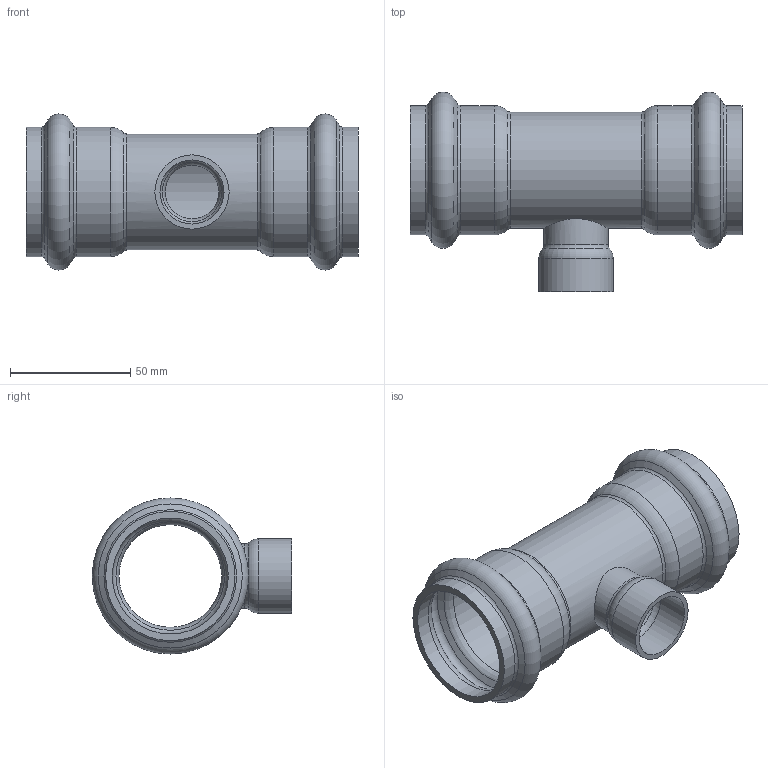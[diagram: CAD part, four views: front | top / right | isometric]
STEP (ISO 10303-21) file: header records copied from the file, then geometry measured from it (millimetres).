
FILE_DESCRIPTION(/* description */ ('VIC TEE RED. BRANCH STYLE P588 (P x P x F)','CAx-IF Rec.Pracs.---Representation and Presentation of Product Manufacturing Information (PMI)---4.0---2014-10-13'),/* implementation_level */ '2;1');
FILE_NAME(/* name */ 'C:\Users\Vjadhav\AppData\Roaming\Autodesk\ApplicationPlugins\Back Up\Victaulic_SS-Vic-Press-TP 304_Tee Threaded_Style P588 (VPxFPT)\Victaulic_SS-Vic-Press-TP 304_Tee Threaded_Style P588 (VPxFPT)_01.5x0.75 (40x20).stp',/* time_stamp */ '2020-08-12T18:49:49+05:00',/* author */ ('cgray'),/* organization */ ('Victaulic'),/* preprocessor_version */ 'ST-DEVELOPER v17.2',/* originating_system */ 'Autodesk Inventor 2019',/* authorisation */ '');
FILE_SCHEMA (('AP242_MANAGED_MODEL_BASED_3D_ENGINEERING_MIM_LF { 1 0 10303 442 1 1 4 }'));
Length unit declared in the file: inch
Products named in the file (1): P588-01.5x0.75
Bounding box: 138.18 x 83.03 x 64.97 mm (x, y, z)
Volume: 69290.7 mm3; surface area: 52332.5 mm2
Topology: 1 solids, 1 shells, 49 faces, 184 edges, 136 vertices
Faces by surface type: torus 24, cylinder 14, cone 8, plane 3
Full cylindrical faces by diameter (mm): 22.454 x1, 26.67 x2, 30.886 x1, 42.723 x1, 48.26 x5, 53.797 x4
Entity records: 2379 total; most frequent: CARTESIAN_POINT 483, DIRECTION 454, ORIENTED_EDGE 368, AXIS2_PLACEMENT_3D 215, EDGE_CURVE 184, CIRCLE 152, VERTEX_POINT 136, EDGE_LOOP 52
